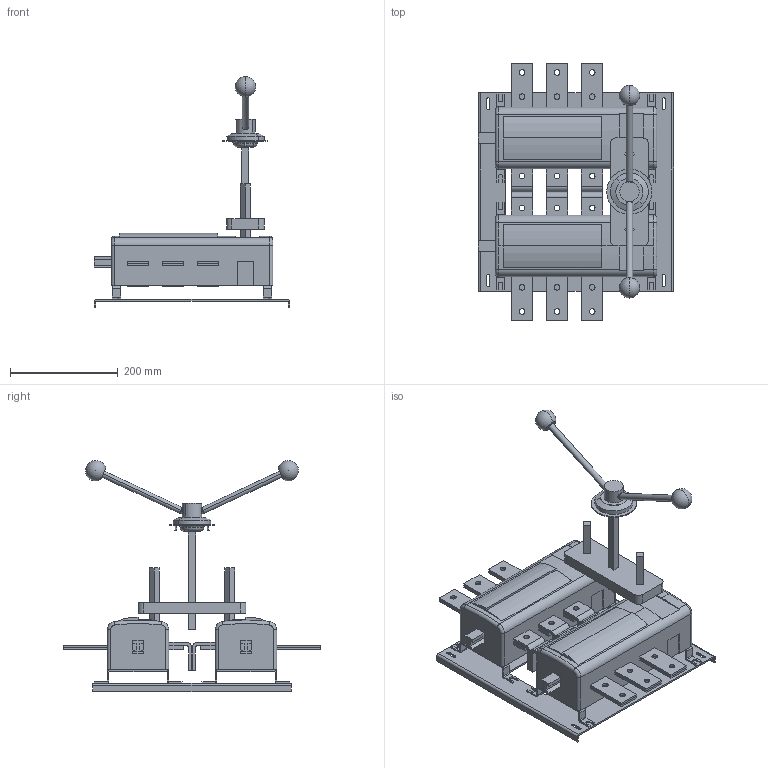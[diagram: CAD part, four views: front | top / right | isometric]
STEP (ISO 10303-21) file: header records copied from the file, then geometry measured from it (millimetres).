
FILE_DESCRIPTION (( 'STEP AP214' ), '1' );
FILE_NAME ('Âûêëþ÷àòåëü íàãðóçêè ÂÍÊ-39-71130-630À-IP32-ÓÕË3-ÊÝÀÇ.STEP', '2023-04-19T12:04:38', ( '' ), ( '' ), 'SwSTEP 2.0', 'SolidWorks 2018', '' );
FILE_SCHEMA (( 'AUTOMOTIVE_DESIGN' ));
Length unit declared in the file: millimetre
Products named in the file (1): Âûêëþ÷àòåëü íàãðóçêè ÂÍÊ-39-71130-630À-IP32-ÓÕË3-ÊÝÀÇ
Bounding box: 362 x 478 x 428.3 mm (x, y, z)
Volume: 7432355.8 mm3; surface area: 802071.7 mm2
Topology: 22 solids, 22 shells, 590 faces, 1519 edges, 1004 vertices
Faces by surface type: plane 378, cylinder 190, torus 16, sphere 4, cone 2
Entity records: 24918 total; most frequent: CARTESIAN_POINT 3286, DIRECTION 3103, ORIENTED_EDGE 3018, EDGE_CURVE 1509, LINE 1081, VECTOR 1081, AXIS2_PLACEMENT_3D 1011, VERTEX_POINT 998
